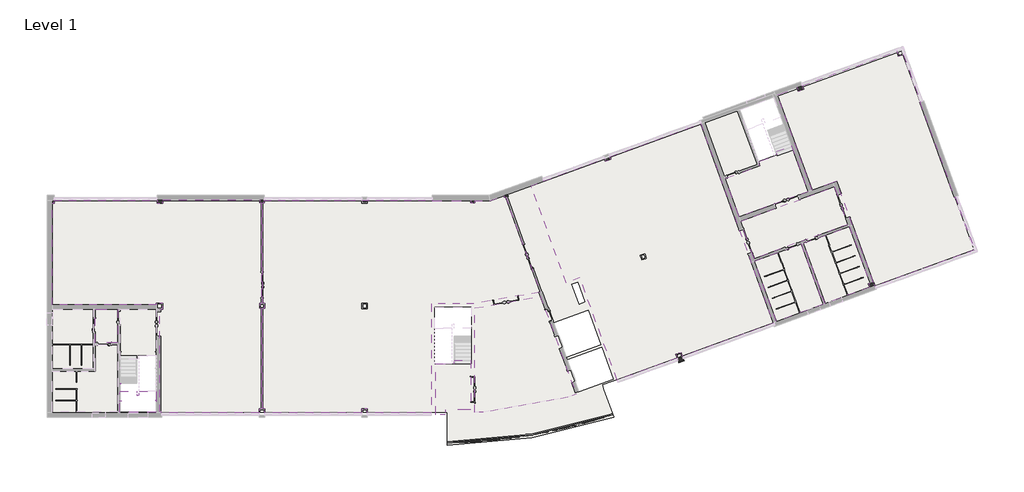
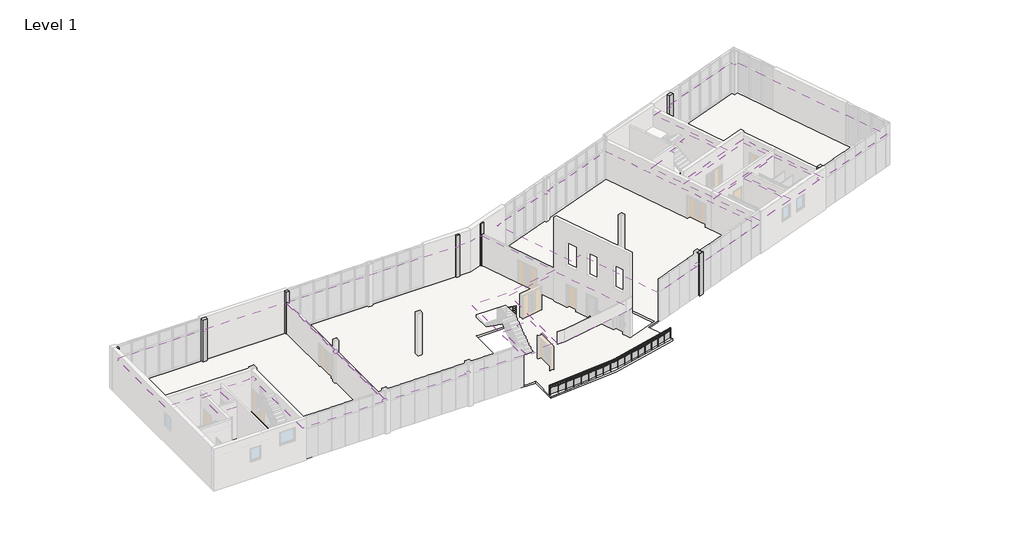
# One storey, part 7 of 12: 11 coverings, 8 columns, 3 proxies, 2 slabs, 1 railing.
"""IFC4 building model written with IfcOpenShell, lengths in millimetres."""

from ifc_helpers import new_model, si_unit, point, frame, frame_2d, origin, place, context, project, spatial, polyline, circle_curve, ellipse_curve, trimmed, segment, composite_curve, outline, extrude, faceted_brep, transform, mapped, element, save
from ifc_brep_helpers import plane_surface, cylinder_surface, revolved_surface, advanced_brep
from components import support_metal_circular_support_metal_circular_016e83f0, cladding_p1_5c8689e0

model = new_model("IFC4")

# Units and contexts
model_context = context("Model", 3, world=origin())
ifc_project = project(units=[si_unit("LENGTHUNIT", "METRE", prefix="MILLI")], contexts=[model_context])

# Site, building, storey
site = spatial("IfcSite", under=ifc_project)
building = spatial("IfcBuilding", under=site)
storey = spatial("IfcBuildingStorey", under=building, Name="Level 1", Elevation=3900.0)

# Proxies
placement = place(None, origin())
support_metal_circular_support_metal_circular_shape = support_metal_circular_support_metal_circular_016e83f0(model_context)
element("IfcBuildingElementProxy", 1, Name="Support - Metal - Circular : Support - Metal - Circular", ObjectType="Support - Metal - Circular : Support - Metal - Circular", at=placement, inside=storey, context=model_context, shape_type="MappedRepresentation", body=[
    mapped(support_metal_circular_support_metal_circular_shape, transform((5322.6000025, 2334.2312733, 6353.6814608), x_axis=(0.0, 1.0, 0.0), y_axis=(-1.0, 0.0, 0.0), z_axis=(0.0, 0.0, 1.0))),
])
element("IfcBuildingElementProxy", 2, Name="Support - Metal - Circular : Support - Metal - Circular", ObjectType="Support - Metal - Circular : Support - Metal - Circular", at=placement, inside=storey, context=model_context, shape_type="MappedRepresentation", body=[
    mapped(support_metal_circular_support_metal_circular_shape, transform((5322.6000025, 1100.0, 6732.5), x_axis=(0.0, 1.0, 0.0), y_axis=(-1.0, 0.0, 0.0), z_axis=(0.0, 0.0, 1.0))),
])
element("IfcBuildingElementProxy", 3, Name="Support - Metal - Circular : Support - Metal - Circular", ObjectType="Support - Metal - Circular : Support - Metal - Circular", at=placement, inside=storey, context=model_context, shape_type="MappedRepresentation", body=[
    mapped(support_metal_circular_support_metal_circular_shape, transform((7761.8000024, 1150.0, 6732.5), x_axis=(0.0, -1.0, 0.0), y_axis=(1.0, 0.0, 0.0), z_axis=(0.0, 0.0, 1.0))),
])

# Columns
cladding_p1_shape = cladding_p1_5c8689e0(model_context)
element("IfcColumn", 4, ObjectType="Cladding : P1", at=placement, inside=storey, context=model_context, shape_type="MappedRepresentation", body=[
    mapped(cladding_p1_shape, transform((45167.1271481, 4034.7258546, 0.0), x_axis=(0.9396926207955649, 0.34202014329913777, 0.0), y_axis=(-0.34202014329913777, 0.9396926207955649, 0.0), z_axis=(0.0, 0.0, 1.0))),
])
element("IfcColumn", 5, ObjectType="Columns_Rectangular : 300x300mm", at=placement, inside=storey, context=model_context, shape_type="SweptSolid", body=[
    extrude(outline(polyline([(562.2000028, 15173.2000005), (426.3000024, 15173.2000005), (426.3000025, 15358.1000013), (562.2000028, 15358.1000013), (562.2000028, 15173.2000005)])), frame((0.0, 0.0, 3900.0), z_axis=(0.0, 0.0, 1.0), x_axis=(1.0, 0.0, 0.0)), (0.0, 0.0, 1.0), 3900.0),
])
element("IfcColumn", 6, ObjectType="Columns_Rectangular : 300x300mm", at=placement, inside=storey, context=model_context, shape_type="Brep", body=[
    faceted_brep([(32610.0635714, 15583.1099494, 7800.0), (32891.9713576, 15685.7159924, 7800.0), (32842.4126389, 15821.8774531, 7800.0), (32560.5048526, 15719.2714101, 7800.0), (32842.4126389, 15821.8774531, 3900.0), (32891.9713576, 15685.7159924, 3900.0), (32807.3990217, 15654.9341795, 3900.0), (32694.6359072, 15613.8917623, 3900.0), (32610.0635714, 15583.1099494, 3900.0), (32560.5048526, 15719.2714101, 3900.0)], [[[0, 1, 2, 3]], [[4, 5, 6, 7, 8, 9]], [[8, 0, 3, 9]], [[1, 0, 8, 7, 6, 5]], [[1, 5, 4, 2]], [[3, 2, 4, 9]]]),
])
element("IfcColumn", 7, ObjectType="Columns_Rectangular : 300x300mm", at=placement, inside=storey, context=model_context, shape_type="SweptSolid", body=[
    extrude(outline(polyline([(30512.2000025, 15213.2000005), (30212.2000025, 15213.2000005), (30212.2000025, 15358.1000004), (30512.2000025, 15358.1000004), (30512.2000025, 15213.2000005)])), frame((0.0, 0.0, 3900.0), z_axis=(0.0, 0.0, 1.0), x_axis=(1.0, 0.0, 0.0)), (0.0, 0.0, 1.0), 3900.0),
])
element("IfcColumn", 8, ObjectType="Columns_Rectangular : 300x300mm", at=placement, inside=storey, context=model_context, shape_type="Brep", body=[
    faceted_brep([(15212.2000024, 15213.2000005, 7800.0), (15512.2000024, 15213.2000005, 7800.0), (15512.2000024, 15421.6000007, 7800.0), (15212.2000024, 15421.6000007, 7800.0), (15512.2000024, 15213.2000005, 3900.0), (15422.2000024, 15213.2000005, 3900.0), (15302.2000024, 15213.2000005, 3900.0), (15212.2000024, 15213.2000005, 3900.0), (15212.2000024, 15421.6000007, 3900.0), (15512.2000024, 15421.6000007, 3900.0)], [[[0, 1, 2, 3]], [[4, 5, 6, 7, 8, 9]], [[7, 0, 3, 8]], [[1, 0, 7, 6, 5, 4]], [[1, 4, 9, 2]], [[3, 2, 9, 8]]]),
])
element("IfcColumn", 9, ObjectType="Columns_Rectangular : 400x400mm", at=placement, inside=storey, context=model_context, shape_type="SweptSolid", body=[
    extrude(outline(polyline([(53911.2024396, 23282.8815641), (53535.3253912, 23146.0735068), (53438.5678927, 23411.9125491), (53814.444941, 23548.7206065), (53911.2024396, 23282.8815641)])), frame((0.0, 0.0, 3900.0), z_axis=(0.0, 0.0, 1.0), x_axis=(1.0, 0.0, 0.0)), (0.0, 0.0, 1.0), 3900.0),
])
element("IfcColumn", 10, ObjectType="Columns_Rectangular : 400x400mm", at=placement, inside=storey, context=model_context, shape_type="SweptSolid", body=[
    extrude(outline(polyline([(8287.2000028, 15163.2000005), (7887.2000028, 15163.2000005), (7887.2000028, 15421.6000008), (8287.2000028, 15421.6000008), (8287.2000028, 15163.2000005)])), frame((0.0, 0.0, 3900.0), z_axis=(0.0, 0.0, 1.0), x_axis=(1.0, 0.0, 0.0)), (0.0, 0.0, 1.0), 3900.0),
])
element("IfcColumn", 11, ObjectType="Columns_Rectangular : 400x400mm", at=placement, inside=storey, context=model_context, shape_type="Brep", body=[
    faceted_brep([(58904.6965317, 9563.3693005, 7800.0), (58528.8194834, 9426.5612432, 7800.0), (58617.1974884, 9183.74467, 7800.0), (58993.0745367, 9320.5527273, 7800.0), (58617.1974884, 9183.74467, 3900.0), (58528.8194834, 9426.5612432, 3900.0), (58646.2810605, 9469.3137609, 3900.0), (58881.2042157, 9554.8187967, 3900.0), (58904.6965317, 9563.3693005, 3900.0), (58993.0745367, 9320.5527273, 3900.0)], [[[0, 1, 2, 3]], [[4, 5, 6, 7, 8, 9]], [[1, 0, 8, 7, 6, 5]], [[1, 5, 4, 2]], [[8, 0, 3, 9]], [[3, 2, 4, 9]]]),
])

# Coverings
element("IfcCovering", 12, ObjectType="24\" x 24\"_Grid", at=placement, inside=storey, context=model_context, shape_type="SweptSolid", body=[
    extrude(outline(polyline([(15537.2000025, 7688.2000003), (15537.2000025, 8038.2000003), (15422.2000024, 8038.2000003), (15422.2000024, 15213.2000005), (15512.2000024, 15213.2000005), (15512.2000024, 15376.4000013), (27487.2000028, 15376.4000013), (27487.2000028, 15358.1000005), (30212.2000025, 15358.1000004), (30212.2000025, 15213.2000005), (30512.2000025, 15213.2000005), (30512.2000025, 15358.1000004), (31568.1945598, 15358.1000004), (32560.5048526, 15719.2714101), (32610.0635714, 15583.1099494), (32694.6359072, 15613.8917623), (35157.4406699, 8847.3912878), (30426.5067877, 8013.2000005), (27412.2000031, 8013.2000004), (27412.2000029, 269.9999995), (22862.2000028, 269.9999995), (22862.2000028, 538.199999), (22462.2000028, 538.199999), (22462.2000028, 269.9999995), (15562.2000028, 269.9999995), (15562.2000028, 538.199999), (15422.2000024, 538.199999), (15422.2000024, 7688.2000003), (15537.2000025, 7688.2000003)]), holes=[polyline([(22882.3447354, 7663.2000003), (22882.3447354, 8063.2000003), (22462.2000024, 8063.2000003), (22462.2000024, 7663.2000003), (22882.3447354, 7663.2000003)])]), frame((0.0, 0.0, 6700.0), z_axis=(0.0, 0.0, 1.0), x_axis=(1.0, 0.0, 0.0)), (0.0, 0.0, 1.0), 50.8),
])
element("IfcCovering", 13, ObjectType="24\" x 24\"_Grid", at=placement, inside=storey, context=model_context, shape_type="SweptSolid", body=[
    extrude(outline(polyline([(37985.6557273, 9877.5855238), (37018.9036828, 9525.7165557), (34556.358651, 16291.5034254), (34506.7999322, 16427.6648862), (35403.0750308, 16753.8823437), (35396.8160621, 16771.0787187), (39742.8264311, 18352.8971307), (39807.2836461, 18176.0793824), (40183.2076743, 18312.9045389), (40118.8394836, 18489.7546895), (46579.1582494, 20841.1184239), (51752.691745, 6626.9519648), (45292.3729792, 4275.5882301), (45193.8027741, 4546.4076429), (44817.7897216, 4409.5500841), (44916.3599267, 4138.7306713), (40640.8265039, 2582.5637698), (37985.6557273, 9877.5855238)]), holes=[polyline([(42724.7984316, 11256.6346278), (42605.0913814, 11585.5270451), (42276.1989642, 11465.8199949), (42395.9060144, 11136.9275777), (42724.7984316, 11256.6346278)])]), frame((0.0, 0.0, 6500.0), z_axis=(0.0, 0.0, 1.0), x_axis=(1.0, 0.0, 0.0)), (0.0, 0.0, 1.0), 50.8),
])
element("IfcCovering", 14, ObjectType="24\" x 24\"_Grid", at=placement, inside=storey, context=model_context, shape_type="SweptSolid", body=[
    extrude(outline(polyline([(61005.9307492, 25756.8181916), (62237.203265, 22373.9247568), (62185.7081092, 22355.182053), (64647.0218686, 15592.7780763), (64698.5170243, 15611.5207802), (66071.7278996, 11838.654908), (59011.8172406, 9269.0575717), (58904.6965317, 9563.3693005), (58881.2042157, 9554.8187967), (56271.6247245, 16724.5795241), (54522.9974115, 16088.1312314), (52042.3253121, 22903.72181), (53438.5678927, 23411.9125491), (53535.3253912, 23146.0735068), (53911.2024396, 23282.8815641), (53817.0784962, 23541.4849732), (60535.8807344, 25986.9289976), (60664.8223283, 25632.6648797), (61005.9307492, 25756.8181916)])), frame((0.0, 0.0, 6700.0), z_axis=(0.0, 0.0, 1.0), x_axis=(1.0, 0.0, 0.0)), (0.0, 0.0, 1.0), 50.8),
])
element("IfcCovering", 15, ObjectType="24\" x 24\"_Grid", at=placement, inside=storey, context=model_context, shape_type="SweptSolid", body=[
    extrude(outline(polyline([(50398.4414991, 11231.8823866), (49424.402333, 13908.0330013), (56089.4541534, 16333.9134736), (57063.4933194, 13657.7628589), (50398.4414991, 11231.8823866)])), frame((0.0, 0.0, 6700.0), z_axis=(0.0, 0.0, 1.0), x_axis=(1.0, 0.0, 0.0)), (0.0, 0.0, 1.0), 50.8),
])
element("IfcCovering", 16, ObjectType="24\" x 24\"_Grid", at=placement, inside=storey, context=model_context, shape_type="SweptSolid", body=[
    extrude(outline(polyline([(28408.3766929, 116.5000008), (27717.0000028, 116.5000009), (27717.000003, 3763.2000006), (29052.2000029, 3763.2000006), (29052.2000029, 4013.2000006), (30207.4000024, 4013.2000006), (30207.4000023, 474.8000006), (28408.3766929, 474.8000006), (28408.3766929, 116.5000008)])), frame((0.0, 0.0, 6700.0), z_axis=(0.0, 0.0, 1.0), x_axis=(1.0, 0.0, 0.0)), (0.0, 0.0, 1.0), 50.8),
])
element("IfcCovering", 17, ObjectType="24\" x 24\"_Grid", at=placement, inside=storey, context=model_context, shape_type="SweptSolid", body=[
    extrude(outline(composite_curve([segment(polyline([(35173.2965987, 8540.6850845), (37714.7826146, 1558.0096457), (37139.232462, 1348.5265219)]), True, "CONTINUOUS"), segment(trimmed(circle_curve(frame_2d((30685.6603889, 20363.2000005)), 20080.0), [point((37139.232462, 1348.5265219))], [point((31124.6877547, 288.0000022))], False, "CARTESIAN"), True, "CONTINUOUS"), segment(polyline([(31124.6877547, 288.0000022), (30512.2000023, 288.0000022), (30512.2000024, 7718.807995), (35173.2965987, 8540.6850845)]), True, "CONTINUOUS")], self_intersect=False)), frame((0.0, 0.0, 6700.0), z_axis=(0.0, 0.0, 1.0), x_axis=(1.0, 0.0, 0.0)), (0.0, 0.0, 1.0), 50.8),
])
element("IfcCovering", 18, ObjectType="24\" x 24\"_Grid", at=placement, inside=storey, context=model_context, shape_type="SweptSolid", body=[
    extrude(outline(polyline([(48322.2189803, 16936.2568752), (50804.9943671, 17839.9132141), (50697.0762506, 18136.4158024), (52050.0788572, 18628.8684779), (51964.5738214, 18863.791633), (53045.2203355, 19257.1147979), (54236.5791007, 15983.8834917), (49320.1545933, 14194.4513121), (48322.2189803, 16936.2568752)])), frame((0.0, 0.0, 6700.0), z_axis=(0.0, 0.0, 1.0), x_axis=(1.0, 0.0, 0.0)), (0.0, 0.0, 1.0), 50.8),
])
element("IfcCovering", 19, ObjectType="24\" x 24\"_Grid", at=placement, inside=storey, context=model_context, shape_type="SweptSolid", body=[
    extrude(outline(polyline([(15187.2000024, 8038.2000003), (15187.2000024, 7688.2000003), (15302.2000024, 7688.2000003), (15302.2000024, 538.199999), (15162.2000029, 538.199999), (15162.2000029, 269.9999995), (8187.2000027, 269.9999995), (8187.2000027, 313.0000002), (8092.0000022, 313.0000002), (8092.0000022, 7638.2000005), (8287.2000028, 7638.2000005), (8287.2000028, 8063.2000005), (7837.2000024, 8063.2000005), (7837.2000024, 7938.2000004), (433.0000002, 7938.2000004), (433.0000014, 15173.2000005), (562.2000028, 15173.2000005), (562.2000028, 15388.9000009), (7887.2000025, 15388.9000009), (7887.2000025, 15163.2000005), (8287.2000028, 15163.2000005), (8287.2000028, 15421.6000008), (15212.2000024, 15421.6000007), (15212.2000024, 15213.2000005), (15302.2000024, 15213.2000005), (15302.2000024, 8038.2000003), (15187.2000024, 8038.2000003)])), frame((0.0, 0.0, 6700.0), z_axis=(0.0, 0.0, 1.0), x_axis=(1.0, 0.0, 0.0)), (0.0, 0.0, 1.0), 50.8),
])
element("IfcCovering", 20, ObjectType="Plain", at=placement, inside=storey, context=model_context, shape_type="SweptSolid", body=[
    extrude(outline(polyline([(58641.7705359, 9467.6720642), (58528.8194834, 9426.5612432), (58617.1974884, 9183.74467), (55452.3127414, 8031.8208273), (53888.7334543, 12327.7196125), (57166.5692539, 13520.7542762), (58641.7705359, 9467.6720642)])), frame((0.0, 0.0, 6700.0), z_axis=(0.0, 0.0, 1.0), x_axis=(1.0, 0.0, 0.0)), (0.0, 0.0, 1.0), 57.0),
])
element("IfcCovering", 21, ObjectType="Plain", at=placement, inside=storey, context=model_context, shape_type="SweptSolid", body=[
    extrude(outline(polyline([(55298.2031516, 7975.7295238), (51971.1274586, 6764.7730045), (50407.5481715, 11060.6717897), (53734.6238645, 12271.628309), (55298.2031516, 7975.7295238)])), frame((0.0, 0.0, 6700.0), z_axis=(0.0, 0.0, 1.0), x_axis=(1.0, 0.0, 0.0)), (0.0, 0.0, 1.0), 57.0),
])
element("IfcCovering", 22, ObjectType="Plain", at=placement, inside=storey, context=model_context, shape_type="SweptSolid", body=[
    extrude(outline(polyline([(3496.5000006, 7633.4000004), (5095.2000024, 7633.4000004), (5095.2000024, 5250.0000001), (3496.5000006, 5250.0000005), (3496.5000006, 7633.4000004)])), frame((0.0, 0.0, 6700.0), z_axis=(0.0, 0.0, 1.0), x_axis=(1.0, 0.0, 0.0)), (0.0, 0.0, 1.0), 57.0),
])

# Railing
element("IfcRailing", 23, ObjectType="Glass_Panel-Bottom_Fill", at=placement, inside=storey, context=model_context, shape_type="SolidModel", body=[
    advanced_brep(
    [(40308.8689844, 181.3840931, 4800.0), (28548.6661194, -1809.3617636, 4800.0), (28549.739034, -1889.3545686, 4800.0), (40334.1834987, 105.4948622, 4800.0)],
    [
        (0, 1, circle_curve(frame((28028.1685328, 36997.1374158, 4800.0), z_axis=(0.0, 0.0, -1.0), x_axis=(0.013411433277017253, -0.9999100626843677, 0.0)), 38809.9896457)),
        (1, 2, ellipse_curve(frame((28549.2025767, -1849.3581661, 4800.0), z_axis=(0.9999100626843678, 0.013411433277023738, 0.0), x_axis=(0.013411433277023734, -0.9999100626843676, 0.0)), 40.0, 30.0)),
        (2, 3, circle_curve(frame((28028.1685328, 36997.1374158, 4800.0), z_axis=(0.0, 0.0, 1.0), x_axis=(0.013411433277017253, -0.9999100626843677, 0.0)), 38889.9896457)),
        (3, 0, ellipse_curve(frame((40321.5262416, 143.4394777, 4800.0), z_axis=(-0.9486153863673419, -0.3164314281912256, 0.0), x_axis=(0.3164314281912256, -0.9486153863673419, 0.0)), 40.0, 30.0)),
        (2, 1, ellipse_curve(frame((28549.2025767, -1849.3581661, 4800.0), z_axis=(0.9999100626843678, 0.013411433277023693, 0.0), x_axis=(0.013411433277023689, -0.9999100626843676, 0.0)), 40.0, 30.0)),
        (0, 3, ellipse_curve(frame((40321.5262416, 143.4394777, 4800.0), z_axis=(-0.9486153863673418, -0.31643142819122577, 0.0), x_axis=(0.31643142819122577, -0.9486153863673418, 0.0)), 40.0, 30.0)),
    ],
    [
        revolved_surface(trimmed(ellipse_curve(frame((28549.2025767, -1849.3581661, 4800.0), z_axis=(-0.9999100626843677, -0.013411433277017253, 0.0), x_axis=(0.013411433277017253, -0.9999100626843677, 0.0)), 40.0, 30.0), [point((28549.739034, -1889.3545686, 4800.0))], [point((28548.6661194, -1809.3617636, 4800.0))], True, "CARTESIAN"), (28028.1685328, 36997.1374158, 4800.0), (0.0, 0.0, 1.0)),
        revolved_surface(trimmed(ellipse_curve(frame((28549.2025767, -1849.3581661, 4800.0), z_axis=(-0.9999100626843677, -0.013411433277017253, 0.0), x_axis=(0.013411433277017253, -0.9999100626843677, 0.0)), 40.0, 30.0), [point((28548.6661194, -1809.3617636, 4800.0))], [point((28549.739034, -1889.3545686, 4800.0))], True, "CARTESIAN"), (28028.1685328, 36997.1374158, 4800.0), (0.0, 0.0, 1.0)),
        plane_surface(frame((28549.2025767, -1849.3581661, 4800.0), z_axis=(-0.9999100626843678, -0.013411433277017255, 0.0), x_axis=(0.013411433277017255, -0.9999100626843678, 0.0))),
        plane_surface(frame((40321.5262416, 143.4394777, 4800.0), z_axis=(0.9486153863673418, 0.3164314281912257, 0.0), x_axis=(0.3164314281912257, -0.9486153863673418, 0.0))),
    ],
    [
        (0, [[1, 2, 3, 4]]),
        (1, [[-3, 5, -1, 6]]),
        (2, [[-5, -2]]),
        (3, [[-4, -6]]),
    ],
),
    extrude(outline(composite_curve([segment(trimmed(circle_curve(frame_2d((28028.1685328, 36997.1374158)), 38859.3804108), [point((40324.4977748, 134.5312533))], [point((28549.3285203, -1858.7480867))], False, "CARTESIAN"), True, "CONTINUOUS"), segment(polyline([(28549.3285203, -1858.7480867), (28549.0602917, -1838.7498855)]), True, "CONTINUOUS"), segment(trimmed(circle_curve(frame_2d((28028.1685328, 36997.1374158)), 38839.3804108), [point((28549.0602917, -1838.7498855))], [point((40318.1691462, 153.5035611))], True, "CARTESIAN"), True, "CONTINUOUS"), segment(polyline([(40318.1691462, 153.5035611), (40324.4977748, 134.5312533)]), True, "CONTINUOUS")], self_intersect=False)), frame((0.0, 0.0, 4680.0), z_axis=(0.0, 0.0, 1.0), x_axis=(1.0, 0.0, 0.0)), (0.0, 0.0, 1.0), 20.0),
    extrude(outline(composite_curve([segment(trimmed(circle_curve(frame_2d((28028.1685328, 36997.1374158)), 38859.3804108), [point((40324.4977748, 134.5312533))], [point((28549.3285203, -1858.7480867))], False, "CARTESIAN"), True, "CONTINUOUS"), segment(polyline([(28549.3285203, -1858.7480867), (28549.0602917, -1838.7498855)]), True, "CONTINUOUS"), segment(trimmed(circle_curve(frame_2d((28028.1685328, 36997.1374158)), 38839.3804108), [point((28549.0602917, -1838.7498855))], [point((40318.1691462, 153.5035611))], True, "CARTESIAN"), True, "CONTINUOUS"), segment(polyline([(40318.1691462, 153.5035611), (40324.4977748, 134.5312533)]), True, "CONTINUOUS")], self_intersect=False)), frame((0.0, 0.0, 4580.0), z_axis=(0.0, 0.0, 1.0), x_axis=(1.0, 0.0, 0.0)), (0.0, 0.0, 1.0), 20.0),
    extrude(outline(polyline([(40266.4314409, 152.0906486), (40277.8190754, 155.8750613), (40293.5874619, 108.4265841), (40282.1998274, 104.6421714), (40266.4314409, 152.0906486)])), frame((0.0, 0.0, 3900.0), z_axis=(0.0, 0.0, 1.0), x_axis=(1.0, 0.0, 0.0)), (0.0, 0.0, 1.0), 869.8465326),
    extrude(outline(polyline([(39614.7863131, -87.6460581), (40281.0268462, 127.1178871), (40282.5608743, 122.3590262), (39616.3203413, -92.404919), (39614.7863131, -87.6460581)])), frame((0.0, 0.0, 4000.0), z_axis=(0.0, 0.0, 1.0), x_axis=(1.0, 0.0, 0.0)), (0.0, 0.0, 1.0), 580.0),
    extrude(outline(polyline([(39600.5954794, -62.4292958), (39612.0494504, -58.8506721), (39626.9603824, -106.5755515), (39615.5064114, -110.1541752), (39600.5954794, -62.4292958)])), frame((0.0, 0.0, 3900.0), z_axis=(0.0, 0.0, 1.0), x_axis=(1.0, 0.0, 0.0)), (0.0, 0.0, 1.0), 869.8465326),
    extrude(outline(polyline([(38944.7367146, -290.3861815), (39614.7385729, -87.6609738), (39616.1866101, -92.4467013), (38946.1847518, -295.1719091), (38944.7367146, -290.3861815)])), frame((0.0, 0.0, 4000.0), z_axis=(0.0, 0.0, 1.0), x_axis=(1.0, 0.0, 0.0)), (0.0, 0.0, 1.0), 580.0),
    extrude(outline(polyline([(38931.0025232, -264.9178317), (38942.5191122, -261.5461589), (38956.5677488, -309.5319464), (38945.0511598, -312.9036192), (38931.0025232, -264.9178317)])), frame((0.0, 0.0, 3900.0), z_axis=(0.0, 0.0, 1.0), x_axis=(1.0, 0.0, 0.0)), (0.0, 0.0, 1.0), 869.8465326),
    extrude(outline(polyline([(38271.1430463, -481.0208902), (38944.6887135, -290.4002347), (38946.0502896, -295.2112752), (38272.5046224, -485.8319306), (38271.1430463, -481.0208902)])), frame((0.0, 0.0, 4000.0), z_axis=(0.0, 0.0, 1.0), x_axis=(1.0, 0.0, 0.0)), (0.0, 0.0, 1.0), 580.0),
    extrude(outline(polyline([(38257.8699559, -455.309221), (38269.445424, -452.1455937), (38282.6272045, -500.3767109), (38271.0517364, -503.5403382), (38257.8699559, -455.309221)])), frame((0.0, 0.0, 3900.0), z_axis=(0.0, 0.0, 1.0), x_axis=(1.0, 0.0, 0.0)), (0.0, 0.0, 1.0), 869.8465326),
    extrude(outline(polyline([(37594.2239908, -659.4882942), (38271.0947997, -481.0340762), (38272.3694727, -485.8688677), (37595.4986637, -664.3230857), (37594.2239908, -659.4882942)])), frame((0.0, 0.0, 4000.0), z_axis=(0.0, 0.0, 1.0), x_axis=(1.0, 0.0, 0.0)), (0.0, 0.0, 1.0), 580.0),
    extrude(outline(polyline([(37581.4163106, -633.5416531), (37593.0468998, -630.5870983), (37605.3575445, -679.0478869), (37593.7269553, -682.0024416), (37581.4163106, -633.5416531)])), frame((0.0, 0.0, 3900.0), z_axis=(0.0, 0.0, 1.0), x_axis=(1.0, 0.0, 0.0)), (0.0, 0.0, 1.0), 869.8465326),
    extrude(outline(polyline([(36914.1993101, -825.7304543), (37594.1755144, -659.5006088), (37595.3628705, -664.3575817), (36915.3866661, -830.5874272), (36914.1993101, -825.7304543)])), frame((0.0, 0.0, 4000.0), z_axis=(0.0, 0.0, 1.0), x_axis=(1.0, 0.0, 0.0)), (0.0, 0.0, 1.0), 580.0),
    extrude(outline(polyline([(36901.8611981, -799.5572647), (36913.5431326, -796.8127417), (36924.9786449, -845.4874688), (36913.2967104, -848.2319918), (36901.8611981, -799.5572647)])), frame((0.0, 0.0, 3900.0), z_axis=(0.0, 0.0, 1.0), x_axis=(1.0, 0.0, 0.0)), (0.0, 0.0, 1.0), 869.8465326),
    extrude(outline(polyline([(36231.2897746, -979.6933996), (36914.1506197, -825.7418934), (36915.2502733, -830.6194709), (36232.3894282, -984.5709771), (36231.2897746, -979.6933996)])), frame((0.0, 0.0, 4000.0), z_axis=(0.0, 0.0, 1.0), x_axis=(1.0, 0.0, 0.0)), (0.0, 0.0, 1.0), 580.0),
    extrude(outline(polyline([(36219.4252364, -953.3021588), (36231.1547236, -950.7685586), (36241.7113911, -999.6414219), (36229.9819039, -1002.1750221), (36219.4252364, -953.3021588)])), frame((0.0, 0.0, 3900.0), z_axis=(0.0, 0.0, 1.0), x_axis=(1.0, 0.0, 0.0)), (0.0, 0.0, 1.0), 869.8465326),
    extrude(outline(polyline([(35545.7170914, -1121.3271461), (36231.2408861, -979.7039597), (36232.2524803, -984.6005582), (35546.7286856, -1126.2237447), (35545.7170914, -1121.3271461)])), frame((0.0, 0.0, 4000.0), z_axis=(0.0, 0.0, 1.0), x_axis=(1.0, 0.0, 0.0)), (0.0, 0.0, 1.0), 580.0),
    extrude(outline(polyline([(35534.3299789, -1094.726422), (35546.1032108, -1092.4045671), (35555.7776061, -1141.4597001), (35544.0043741, -1143.781555), (35534.3299789, -1094.726422)])), frame((0.0, 0.0, 3900.0), z_axis=(0.0, 0.0, 1.0), x_axis=(1.0, 0.0, 0.0)), (0.0, 0.0, 1.0), 869.8465326),
    extrude(outline(polyline([(34857.703832, -1250.5857124), (35545.6680206, -1121.3368236), (35546.5912269, -1126.2508536), (34858.6270383, -1255.4997423), (34857.703832, -1250.5857124)])), frame((0.0, 0.0, 4000.0), z_axis=(0.0, 0.0, 1.0), x_axis=(1.0, 0.0, 0.0)), (0.0, 0.0, 1.0), 580.0),
    extrude(outline(polyline([(34846.7978419, -1223.7841408), (34858.6109963, -1221.674785), (34867.3999787, -1270.8962619), (34855.5868242, -1273.0056177), (34846.7978419, -1223.7841408)])), frame((0.0, 0.0, 3900.0), z_axis=(0.0, 0.0, 1.0), x_axis=(1.0, 0.0, 0.0)), (0.0, 0.0, 1.0), 869.8465326),
    extrude(outline(polyline([(34167.4733602, -1367.4271344), (34857.6545947, -1250.5945042), (34858.4891135, -1255.5243701), (34168.307879, -1372.3570004), (34167.4733602, -1367.4271344)])), frame((0.0, 0.0, 4000.0), z_axis=(0.0, 0.0, 1.0), x_axis=(1.0, 0.0, 0.0)), (0.0, 0.0, 1.0), 580.0),
    extrude(outline(polyline([(34157.0520331, -1340.4334166), (34168.901275, -1338.5372447), (34176.8019911, -1387.9090857), (34164.9527492, -1389.8052576), (34157.0520331, -1340.4334166)])), frame((0.0, 0.0, 3900.0), z_axis=(0.0, 0.0, 1.0), x_axis=(1.0, 0.0, 0.0)), (0.0, 0.0, 1.0), 869.8465326),
    extrude(outline(polyline([(33475.2497597, -1471.8134797), (34167.4239725, -1367.4350377), (34168.1695328, -1372.3791392), (33475.99532, -1476.7575812), (33475.2497597, -1471.8134797)])), frame((0.0, 0.0, 4000.0), z_axis=(0.0, 0.0, 1.0), x_axis=(1.0, 0.0, 0.0)), (0.0, 0.0, 1.0), 580.0),
    extrude(outline(polyline([(33465.3164791, -1444.6363791), (33477.1979614, -1442.9540068), (33484.2078462, -1492.4601833), (33472.3263639, -1494.1425556), (33465.3164791, -1444.6363791)])), frame((0.0, 0.0, 3900.0), z_axis=(0.0, 0.0, 1.0), x_axis=(1.0, 0.0, 0.0)), (0.0, 0.0, 1.0), 869.8465326),
    extrude(outline(polyline([(32781.2577613, -1563.7108591), (33475.2002376, -1471.8204918), (33475.8565974, -1476.7772238), (32781.9141211, -1568.667591), (32781.2577613, -1563.7108591)])), frame((0.0, 0.0, 4000.0), z_axis=(0.0, 0.0, 1.0), x_axis=(1.0, 0.0, 0.0)), (0.0, 0.0, 1.0), 580.0),
    extrude(outline(polyline([(32771.8157519, -1536.3591988), (32783.7256175, -1534.8911722), (32789.8423953, -1584.515612), (32777.9325297, -1585.9836387), (32771.8157519, -1536.3591988)])), frame((0.0, 0.0, 3900.0), z_axis=(0.0, 0.0, 1.0), x_axis=(1.0, 0.0, 0.0)), (0.0, 0.0, 1.0), 869.8465326),
    extrude(outline(polyline([(32085.72267, -1643.089438), (32781.208121, -1563.7169778), (32781.7750671, -1568.684731), (32086.2896161, -1648.0571912), (32085.72267, -1643.089438)])), frame((0.0, 0.0, 4000.0), z_axis=(0.0, 0.0, 1.0), x_axis=(1.0, 0.0, 0.0)), (0.0, 0.0, 1.0), 580.0),
    extrude(outline(polyline([(32076.7749971, -1615.5720979), (32088.7093793, -1614.3188935), (32093.9310643, -1664.045486), (32081.9966821, -1665.2986904), (32076.7749971, -1615.5720979)])), frame((0.0, 0.0, 3900.0), z_axis=(0.0, 0.0, 1.0), x_axis=(1.0, 0.0, 0.0)), (0.0, 0.0, 1.0), 869.8465326),
    extrude(outline(polyline([(31388.8702915, -1709.9234463), (32085.6729274, -1643.0946614), (32086.1502759, -1648.0718231), (31389.3476399, -1714.900608), (31388.8702915, -1709.9234463)])), frame((0.0, 0.0, 4000.0), z_axis=(0.0, 0.0, 1.0), x_axis=(1.0, 0.0, 0.0)), (0.0, 0.0, 1.0), 580.0),
    extrude(outline(polyline([(31380.4198601, -1682.2493597), (31392.3748844, -1681.2113844), (31396.6997813, -1731.0239859), (31384.7447569, -1732.0619612), (31380.4198601, -1682.2493597)])), frame((0.0, 0.0, 3900.0), z_axis=(0.0, 0.0, 1.0), x_axis=(1.0, 0.0, 0.0)), (0.0, 0.0, 1.0), 869.8465326),
    extrude(outline(polyline([(30690.9268593, -1764.1911861), (31388.8204629, -1709.9277726), (31389.2080587, -1714.9127269), (30691.3144551, -1769.1761404), (30690.9268593, -1764.1911861)])), frame((0.0, 0.0, 4000.0), z_axis=(0.0, 0.0, 1.0), x_axis=(1.0, 0.0, 0.0)), (0.0, 0.0, 1.0), 580.0),
    extrude(outline(polyline([(30682.9764127, -1736.3693375), (30694.948198, -1735.5469284), (30698.3749028, -1785.4293671), (30686.4031175, -1786.2517763), (30682.9764127, -1736.3693375)])), frame((0.0, 0.0, 3900.0), z_axis=(0.0, 0.0, 1.0), x_axis=(1.0, 0.0, 0.0)), (0.0, 0.0, 1.0), 869.8465326),
    extrude(outline(polyline([(29992.1189611, -1805.8750395), (30690.8769608, -1764.1946139), (30691.1746782, -1769.1857425), (29992.4166785, -1810.8661681), (29992.1189611, -1805.8750395)])), frame((0.0, 0.0, 4000.0), z_axis=(0.0, 0.0, 1.0), x_axis=(1.0, 0.0, 0.0)), (0.0, 0.0, 1.0), 580.0),
    extrude(outline(polyline([(29984.6710806, -1777.9144613), (29996.6557402, -1777.3078852), (29999.1831403, -1827.2439669), (29987.1984807, -1827.8505429), (29984.6710806, -1777.9144613)])), frame((0.0, 0.0, 3900.0), z_axis=(0.0, 0.0, 1.0), x_axis=(1.0, 0.0, 0.0)), (0.0, 0.0, 1.0), 869.8465326),
    extrude(outline(polyline([(29292.6734654, -1834.9614737), (29992.069009, -1805.8775677), (29992.2767512, -1810.8732502), (29292.8812076, -1839.9571562), (29292.6734654, -1834.9614737)])), frame((0.0, 0.0, 4000.0), z_axis=(0.0, 0.0, 1.0), x_axis=(1.0, 0.0, 0.0)), (0.0, 0.0, 1.0), 580.0),
    extrude(outline(polyline([(29285.7305689, -1806.8712433), (29297.7242119, -1806.4806973), (29299.3514869, -1856.45421), (29287.3578438, -1856.844756), (29285.7305689, -1806.8712433)])), frame((0.0, 0.0, 3900.0), z_axis=(0.0, 0.0, 1.0), x_axis=(1.0, 0.0, 0.0)), (0.0, 0.0, 1.0), 869.8465326),
    extrude(outline(polyline([(28592.8174475, -1851.4410459), (29292.6234759, -1834.9631015), (29292.7411755, -1839.961716), (28592.9351471, -1856.4396604), (28592.8174475, -1851.4410459)])), frame((0.0, 0.0, 4000.0), z_axis=(0.0, 0.0, 1.0), x_axis=(1.0, 0.0, 0.0)), (0.0, 0.0, 1.0), 580.0),
    extrude(outline(polyline([(28586.3817889, -1823.2302827), (28598.3805217, -1823.0558936), (28599.1071432, -1873.0506135), (28587.1084105, -1873.2250027), (28586.3817889, -1823.2302827)])), frame((0.0, 0.0, 3900.0), z_axis=(0.0, 0.0, 1.0), x_axis=(1.0, 0.0, 0.0)), (0.0, 0.0, 1.0), 869.8465326),
    extrude(outline(polyline([(40305.8348586, 165.2020895), (40317.2184387, 168.9986806), (40333.0375683, 121.5670968), (40321.6539882, 117.7705057), (40305.8348586, 165.2020895)])), frame((0.0, 0.0, 3900.0), z_axis=(0.0, 0.0, 1.0), x_axis=(1.0, 0.0, 0.0)), (0.0, 0.0, 1.0), 869.8465326),
    extrude(outline(polyline([(28544.8581965, -1823.8051549), (28556.8571089, -1823.6436), (28557.5302544, -1873.6390686), (28545.5313419, -1873.8006235), (28544.8581965, -1823.8051549)])), frame((0.0, 0.0, 3900.0), z_axis=(0.0, 0.0, 1.0), x_axis=(1.0, 0.0, 0.0)), (0.0, 0.0, 1.0), 869.8465326),
])

# Slabs
element("IfcSlab", 24, ObjectType="8\" Thickness", at=placement, inside=storey, context=model_context, shape_type="SolidModel", body=[
    faceted_brep([(6447.2000025, 1800.0, 5849.0), (5247.2000025, 1800.0, 5849.0), (5247.2000025, 1572.7280846, 5849.0), (5247.2000025, 300.0000001, 5849.0), (7837.2000024, 300.0000001, 5849.0), (7837.2000024, 1777.2719153, 5849.0), (7837.2000024, 1800.0, 5849.0), (6637.2000026, 1800.0, 5849.0), (6637.2000026, 1777.2719153, 5849.0), (6637.2000026, 1500.0, 5849.0), (6447.2000025, 1500.0, 5849.0), (6447.2000025, 1572.7280846, 5849.0), (6447.2000025, 1800.0, 5487.8435509), (6447.2000025, 1800.0, 5671.7272727), (6447.2000025, 1500.0, 5649.0), (6447.2000025, 1572.7280846, 5649.0), (5247.2000025, 1800.0, 5671.7272727), (5247.2000025, 1800.0, 5487.8435509), (5247.2000025, 1572.7280846, 5649.0), (5247.2000025, 300.0000001, 5649.0), (6637.2000026, 1800.0, 5665.1162782), (6637.2000026, 1777.2719153, 5649.0), (6637.2000026, 1500.0, 5649.0), (7837.2000024, 1777.2719153, 5649.0), (7837.2000024, 300.0000001, 5649.0), (7837.2000024, 1800.0, 5665.1162782)], [[[0, 1, 2, 3, 4, 5, 6, 7, 8, 9, 10, 11]], [[12, 13, 0, 11, 10, 14, 15]], [[1, 16, 17, 18, 19, 3, 2]], [[7, 20, 21, 22, 9, 8]], [[18, 15, 14, 22, 21, 23, 24, 19]], [[15, 18, 17, 12]], [[23, 21, 20, 25]], [[1, 0, 13, 12, 17, 16]], [[4, 3, 19, 24]], [[4, 24, 23, 25, 6, 5]], [[7, 6, 25, 20]], [[10, 9, 22, 14]]]),
    extrude(outline(polyline([(6447.2000025, 1800.0), (6447.2000025, 1500.0), (6637.2000026, 1500.0), (6637.2000026, 1800.0), (7837.2000024, 1800.0), (7837.2000024, 300.0000001), (5247.2000025, 300.0000001), (5247.2000025, 1800.0), (6447.2000025, 1800.0)])), frame((0.0, 0.0, 5849.0), z_axis=(0.0, 0.0, 1.0), x_axis=(1.0, 0.0, 0.0)), (0.0, 0.0, 1.0), 1.0),
])
element("IfcSlab", 25, ObjectType="Generic 6 1/2\"", at=placement, inside=storey, context=model_context, shape_type="AdvancedBrep", body=[
    advanced_brep(
    [(39562.9052516, 2235.0344037, 3734.9), (39597.6544982, 2139.5616334, 3734.9), (39662.8093355, 1960.5501892, 3734.9), (40391.5794686, -41.7292956, 3734.9), (40379.5266208, -45.7502194, 3734.9), (28556.6779042, -2047.1011917, 3734.9), (28543.9766926, -2047.27114, 3734.9), (28543.9766928, 128.5000005, 3734.9), (28543.9766928, 288.0000005, 3734.9), (27717.0000029, 288.0000005, 3734.9), (27412.2000029, 288.0000005, 3734.9), (420.3, 288.0, 3734.9), (420.3000025, 15318.4000008, 3734.9), (31575.1947409, 15318.4000004, 3734.9), (49365.7514082, 21794.2007453, 3734.9), (50697.0762506, 18136.4158024, 3734.9), (52050.0788572, 18628.8684779, 3734.9), (51964.5738214, 18863.791633, 3734.9), (53106.6762329, 19279.4829152, 3734.9), (51860.8308388, 22702.415004, 3734.9), (60878.1700065, 25984.7457815, 3734.9), (66017.7677921, 11863.8169191, 3734.9), (40626.4274557, 2622.1248295, 3734.9), (40391.5043005, 2536.6197937, 3734.9), (38570.0121341, 7541.1283909, 3734.9), (36126.8113195, 6651.8760181, 3734.9), (37017.2607629, 4205.3862799, 3734.9), (39460.4615772, 5094.6386527, 3734.9), (39528.8656059, 4906.7001285, 3734.9), (37085.6647918, 4017.4477559, 3734.9), (37905.7561806, 1764.2651831, 3734.9), (40348.9569947, 2653.5175556, 3734.9), (38349.2678229, 8147.6184016, 3734.9), (37836.2376078, 9557.1573328, 3734.9), (37422.7728548, 9406.6684697, 3734.9), (37935.8030697, 7997.1295385, 3734.9), (29052.2000029, 4013.2000006, 3734.9), (30252.200003, 4013.2000006, 3734.9), (30252.200003, 7708.4000005, 3734.9), (30252.200003, 7757.8000004, 3734.9), (27717.0000031, 7757.8000004, 3734.9), (27667.6000031, 7757.8000004, 3734.9), (27667.6000031, 3763.2000006, 3734.9), (27717.000003, 3763.2000006, 3734.9), (29052.2000029, 3763.2000006, 3734.9), (5259.2000024, 4050.0, 3734.9), (5259.2000024, 345.4000001, 3734.9), (7841.8000023, 345.4000001, 3734.9), (7841.8000023, 4300.0, 3734.9), (6497.2000024, 4300.0, 3734.9), (6497.2000024, 4050.0, 3734.9), (40391.5794686, -41.7292956, 3900.0), (39662.8093355, 1960.5501892, 3900.0), (39597.6544982, 2139.5616334, 3900.0), (39562.9052516, 2235.0344037, 3900.0), (40391.5043005, 2536.6197937, 3900.0), (40626.4274557, 2622.1248295, 3900.0), (66017.7677921, 11863.8169191, 3900.0), (60878.1700065, 25984.7457815, 3900.0), (51860.8308388, 22702.415004, 3900.0), (53106.6762329, 19279.4829152, 3900.0), (51964.5738214, 18863.791633, 3900.0), (52050.0788572, 18628.8684779, 3900.0), (50697.0762506, 18136.4158024, 3900.0), (49365.7514082, 21794.2007453, 3900.0), (31575.1947409, 15318.4000004, 3900.0), (420.3000025, 15318.4000008, 3900.0), (420.3, 288.0, 3900.0), (27412.2000029, 288.0000005, 3900.0), (27717.0000029, 288.0000005, 3900.0), (28543.9766928, 288.0000005, 3900.0), (28543.9766928, 128.5000005, 3900.0), (28543.9766926, -2047.27114, 3900.0), (28556.6779042, -2047.1011917, 3900.0), (40379.5266208, -45.7502194, 3900.0), (36126.8113195, 6651.8760181, 3900.0), (38570.0121341, 7541.1283909, 3900.0), (39460.4615772, 5094.6386527, 3900.0), (37017.2607629, 4205.3862799, 3900.0), (37085.6647918, 4017.4477559, 3900.0), (39528.8656059, 4906.7001285, 3900.0), (40348.9569947, 2653.5175556, 3900.0), (37905.7561806, 1764.2651831, 3900.0), (30252.200003, 4013.2000006, 3900.0), (29052.2000029, 4013.2000006, 3900.0), (29052.2000029, 3763.2000006, 3900.0), (27717.000003, 3763.2000006, 3900.0), (27667.6000031, 3763.2000006, 3900.0), (27667.6000031, 7757.8000004, 3900.0), (27717.0000031, 7757.8000004, 3900.0), (30252.200003, 7757.8000004, 3900.0), (30252.200003, 7708.4000005, 3900.0), (5259.2000024, 345.4000001, 3900.0), (5259.2000024, 4050.0, 3900.0), (6497.2000024, 4050.0, 3900.0), (6497.2000024, 4300.0, 3900.0), (7841.8000023, 4300.0, 3900.0), (7841.8000023, 345.4000001, 3900.0), (37836.2376078, 9557.1573328, 3900.0), (38349.2678229, 8147.6184016, 3900.0), (37935.8030697, 7997.1295385, 3900.0), (37422.7728548, 9406.6684697, 3900.0)],
    [
        (0, 1),
        (1, 2),
        (2, 3),
        (3, 4, circle_curve(frame((28027.924496, 36998.4991929, 3734.9), z_axis=(0.0, 0.0, -1.0), x_axis=(1.0, 0.0, 0.0)), 39049.1804108)),
        (4, 5, circle_curve(frame((28027.924496, 36998.4991929, 3734.9), z_axis=(0.0, 0.0, -1.0), x_axis=(1.0, 0.0, 0.0)), 39049.1803956)),
        (5, 6, circle_curve(frame((28027.924496, 36998.4991929, 3734.9), z_axis=(0.0, 0.0, -1.0), x_axis=(1.0, 0.0, 0.0)), 39049.1803955)),
        (6, 7),
        (7, 8),
        (8, 9),
        (9, 10),
        (10, 11),
        (11, 12),
        (12, 13),
        (13, 14),
        (14, 15),
        (15, 16),
        (16, 17),
        (17, 18),
        (18, 19),
        (19, 20),
        (20, 21),
        (21, 22),
        (22, 23),
        (23, 0),
        (24, 25),
        (25, 26),
        (26, 27),
        (27, 24),
        (28, 29),
        (29, 30),
        (30, 31),
        (31, 28),
        (32, 33),
        (33, 34),
        (34, 35),
        (35, 32),
        (36, 37),
        (37, 38),
        (38, 39),
        (39, 40),
        (40, 41),
        (41, 42),
        (42, 43),
        (43, 44),
        (44, 36),
        (45, 46),
        (46, 47),
        (47, 48),
        (48, 49),
        (49, 50),
        (50, 45),
        (51, 52),
        (52, 53),
        (53, 54),
        (54, 55),
        (55, 56),
        (56, 57),
        (57, 58),
        (58, 59),
        (59, 60),
        (60, 61),
        (61, 62),
        (62, 63),
        (63, 64),
        (64, 65),
        (65, 66),
        (66, 67),
        (67, 68),
        (68, 69),
        (69, 70),
        (70, 71),
        (71, 72),
        (72, 73, circle_curve(frame((28027.924496, 36998.4991929, 3900.0), z_axis=(0.0, 0.0, 1.0), x_axis=(1.0, 0.0, 0.0)), 39049.1804108)),
        (73, 74, circle_curve(frame((28027.924496, 36998.4991929, 3900.0), z_axis=(0.0, 0.0, 1.0), x_axis=(1.0, 0.0, 0.0)), 39049.1803955)),
        (74, 51, circle_curve(frame((28027.924496, 36998.4991929, 3900.0), z_axis=(0.0, 0.0, 1.0), x_axis=(1.0, 0.0, 0.0)), 39049.1803956)),
        (75, 76),
        (76, 77),
        (77, 78),
        (78, 75),
        (79, 80),
        (80, 81),
        (81, 82),
        (82, 79),
        (83, 84),
        (84, 85),
        (85, 86),
        (86, 87),
        (87, 88),
        (88, 89),
        (89, 90),
        (90, 91),
        (91, 83),
        (92, 93),
        (93, 94),
        (94, 95),
        (95, 96),
        (96, 97),
        (97, 92),
        (98, 99),
        (99, 100),
        (100, 101),
        (101, 98),
        (0, 54),
        (51, 3),
        (72, 6),
        (70, 8),
        (24, 76),
        (75, 25),
        (78, 26),
        (77, 27),
        (28, 80),
        (79, 29),
        (82, 30),
        (81, 31),
        (32, 99),
        (98, 33),
        (101, 34),
        (100, 35),
        (67, 11),
        (66, 12),
        (65, 13),
        (64, 14),
        (58, 20),
        (19, 59),
        (57, 21),
        (36, 84),
        (83, 37),
        (90, 39),
        (88, 41),
        (87, 42),
        (85, 44),
        (92, 46),
        (45, 93),
        (97, 47),
        (96, 48),
        (95, 49),
        (15, 63),
        (62, 16),
        (18, 60),
        (94, 50),
        (61, 17),
    ],
    [
        plane_surface(frame((67077.1049068, 36998.4991929, 3734.9), z_axis=(0.0, 0.0, -1.0), x_axis=(0.0, -1.0, 0.0))),
        plane_surface(frame((67077.1049068, 36998.4991929, 3900.0), z_axis=(0.0, 0.0, 1.0), x_axis=(0.0, 1.0, 0.0))),
        plane_surface(frame((39562.9052516, 2235.0344037, 3734.9), z_axis=(0.9396926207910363, 0.34202014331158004, 0.0), x_axis=(0.0, 0.0, 1.0))),
        cylinder_surface(frame((28027.924496, 36998.4991929, 3900.0), z_axis=(0.0, 0.0, -1.0), x_axis=(1.0, 0.0, 0.0)), 39049.1804108),
        plane_surface(frame((28543.9766926, -2047.27114, 3734.9), z_axis=(-1.0, 5.6002074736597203e-11, 0.0), x_axis=(0.0, 0.0, 1.0))),
        plane_surface(frame((38570.0121341, 7541.1283909, 4700.1), z_axis=(0.3420201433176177, -0.9396926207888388, 0.0), x_axis=(0.0, 0.0, -1.0))),
        plane_surface(frame((36126.8113195, 6651.8760181, 4700.1), z_axis=(0.9396926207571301, 0.34202014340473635, 0.0), x_axis=(0.0, 0.0, -1.0))),
        plane_surface(frame((37017.2607629, 4205.3862799, 4700.1), z_axis=(-0.3420201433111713, 0.9396926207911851, 0.0), x_axis=(0.0, 0.0, -1.0))),
        plane_surface(frame((39460.4615772, 5094.6386527, 4700.1), z_axis=(-0.939692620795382, -0.3420201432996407, 0.0), x_axis=(0.0, 0.0, -1.0))),
        plane_surface(frame((39528.8656059, 4906.7001285, 4700.1), z_axis=(0.34202014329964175, -0.9396926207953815, 0.0), x_axis=(0.0, 0.0, -1.0))),
        plane_surface(frame((37085.6647918, 4017.4477559, 4700.1), z_axis=(0.9396926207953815, 0.3420201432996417, 0.0), x_axis=(0.0, 0.0, -1.0))),
        plane_surface(frame((37905.7561806, 1764.2651831, 4700.1), z_axis=(-0.34202014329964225, 0.9396926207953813, 0.0), x_axis=(0.0, 0.0, -1.0))),
        plane_surface(frame((40348.9569947, 2653.5175556, 4700.1), z_axis=(-0.9396926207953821, -0.34202014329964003, 0.0), x_axis=(0.0, 0.0, -1.0))),
        plane_surface(frame((38349.2678229, 8147.6184016, 4700.1), z_axis=(-0.9396926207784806, -0.3420201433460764, 0.0), x_axis=(0.0, 0.0, -1.0))),
        plane_surface(frame((37836.2376078, 9557.1573328, 4700.1), z_axis=(0.34202014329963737, -0.9396926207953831, 0.0), x_axis=(0.0, 0.0, -1.0))),
        plane_surface(frame((37422.7728548, 9406.6684697, 4700.1), z_axis=(0.9396926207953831, 0.3420201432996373, 0.0), x_axis=(0.0, 0.0, -1.0))),
        plane_surface(frame((37935.8030697, 7997.1295385, 4700.1), z_axis=(-0.34202014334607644, 0.9396926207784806, 0.0), x_axis=(0.0, 0.0, -1.0))),
        plane_surface(frame((28543.9766928, 288.0000005, 3734.9), z_axis=(1.7196186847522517e-11, -1.0, 0.0), x_axis=(0.0, 0.0, 1.0))),
        plane_surface(frame((420.3, 288.0, 3734.9), z_axis=(-1.0, 1.600286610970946e-10, 0.0), x_axis=(0.0, 0.0, 1.0))),
        plane_surface(frame((420.3000025, 15318.4000008, 3734.9), z_axis=(1.1384689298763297e-11, 1.0, 0.0), x_axis=(0.0, 0.0, 1.0))),
        plane_surface(frame((31575.1947409, 15318.4000004, 3734.9), z_axis=(-0.34204661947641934, 0.9396829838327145, 0.0), x_axis=(0.0, 0.0, 1.0))),
        plane_surface(frame((60878.1700065, 25984.7457815, 3734.9), z_axis=(0.9396926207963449, 0.3420201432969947, 0.0), x_axis=(0.0, 0.0, 1.0))),
        plane_surface(frame((66017.7677921, 11863.8169191, 3734.9), z_axis=(0.3420201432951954, -0.9396926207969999, 0.0), x_axis=(0.0, 0.0, 1.0))),
        plane_surface(frame((29052.2000029, 4013.2000006, 8104.8), z_axis=(0.0, 1.0, 0.0), x_axis=(0.0, 0.0, -1.0))),
        plane_surface(frame((30252.200003, 4013.2000006, 8104.8), z_axis=(-1.0, 0.0, 0.0), x_axis=(0.0, 0.0, -1.0))),
        plane_surface(frame((30252.200003, 7757.8000004, 8104.8), z_axis=(0.0, -1.0, 0.0), x_axis=(0.0, 0.0, -1.0))),
        plane_surface(frame((27667.6000031, 7757.8000004, 8104.8), z_axis=(1.0, 0.0, 0.0), x_axis=(0.0, 0.0, -1.0))),
        plane_surface(frame((27667.6000031, 3763.2000006, 8104.8), z_axis=(0.0, 1.0, 0.0), x_axis=(0.0, 0.0, -1.0))),
        plane_surface(frame((29052.2000029, 3763.2000006, 8104.8), z_axis=(-1.0, 0.0, 0.0), x_axis=(0.0, 0.0, -1.0))),
        plane_surface(frame((5259.2000024, 4050.0, 4700.1), z_axis=(1.0, 0.0, 0.0), x_axis=(0.0, 0.0, -1.0))),
        plane_surface(frame((5259.2000024, 345.4000001, 4700.1), z_axis=(0.0, 1.0, 0.0), x_axis=(0.0, 0.0, -1.0))),
        plane_surface(frame((7841.8000023, 345.4000001, 4700.1), z_axis=(-1.0, 0.0, 0.0), x_axis=(0.0, 0.0, -1.0))),
        plane_surface(frame((7841.8000023, 4300.0, 4700.1), z_axis=(0.0, -1.0, 0.0), x_axis=(0.0, 0.0, -1.0))),
        plane_surface(frame((50697.0762506, 18136.4158024, 4700.1), z_axis=(-0.34202014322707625, 0.9396926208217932, 0.0), x_axis=(0.0, 0.0, -1.0))),
        plane_surface(frame((53106.6762329, 19279.4829152, 4700.1), z_axis=(-0.9396926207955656, -0.3420201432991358, 0.0), x_axis=(0.0, 0.0, -1.0))),
        plane_surface(frame((49332.4158788, 21885.7893593, 4700.1), z_axis=(0.9396926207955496, 0.3420201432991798, 0.0), x_axis=(0.0, 0.0, -1.0))),
        plane_surface(frame((6497.2000024, 4300.0, 4700.1), z_axis=(1.0, 0.0, 0.0), x_axis=(0.0, 0.0, -1.0))),
        plane_surface(frame((6497.2000024, 4050.0, 4700.1), z_axis=(0.0, -1.0, 0.0), x_axis=(0.0, 0.0, -1.0))),
        plane_surface(frame((52050.0788572, 18628.8684779, 4700.1), z_axis=(-0.9396926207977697, -0.3420201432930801, 0.0), x_axis=(0.0, 0.0, -1.0))),
        plane_surface(frame((51964.5738214, 18863.791633, 4700.1), z_axis=(-0.3420201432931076, 0.9396926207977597, 0.0), x_axis=(0.0, 0.0, -1.0))),
    ],
    [
        (0, [[1, 2, 3, 4, 5, 6, 7, 8, 9, 10, 11, 12, 13, 14, 15, 16, 17, 18, 19, 20, 21, 22, 23, 24], [25, 26, 27, 28], [29, 30, 31, 32], [33, 34, 35, 36], [37, 38, 39, 40, 41, 42, 43, 44, 45], [46, 47, 48, 49, 50, 51]]),
        (1, [[52, 53, 54, 55, 56, 57, 58, 59, 60, 61, 62, 63, 64, 65, 66, 67, 68, 69, 70, 71, 72, 73, 74, 75], [76, 77, 78, 79], [80, 81, 82, 83], [84, 85, 86, 87, 88, 89, 90, 91, 92], [93, 94, 95, 96, 97, 98], [99, 100, 101, 102]]),
        (2, [[-3, -2, -1, 103, -54, -53, -52, 104]]),
        (3, [[-6, -5, -4, -104, -75, -74, -73, 105]]),
        (4, [[-8, -7, -105, -72, -71, 106]]),
        (5, [[107, -76, 108, -25]]),
        (6, [[-108, -79, 109, -26]]),
        (7, [[-109, -78, 110, -27]]),
        (8, [[-107, -28, -110, -77]]),
        (9, [[111, -80, 112, -29]]),
        (10, [[-112, -83, 113, -30]]),
        (11, [[-113, -82, 114, -31]]),
        (12, [[-111, -32, -114, -81]]),
        (13, [[115, -99, 116, -33]]),
        (14, [[-116, -102, 117, -34]]),
        (15, [[-117, -101, 118, -35]]),
        (16, [[-115, -36, -118, -100]]),
        (17, [[-11, -10, -9, -106, -70, -69, -68, 119]]),
        (18, [[-12, -119, -67, 120]]),
        (19, [[-13, -120, -66, 121]]),
        (20, [[-121, -65, 122, -14]]),
        (20, [[123, -20, 124, -59]]),
        (21, [[-21, -123, -58, 125]]),
        (22, [[-24, -23, -22, -125, -57, -56, -55, -103]]),
        (23, [[126, -84, 127, -37]]),
        (24, [[-127, -92, -91, 128, -39, -38]]),
        (25, [[-128, -90, -89, 129, -41, -40]]),
        (26, [[-129, -88, 130, -42]]),
        (27, [[-130, -87, -86, 131, -44, -43]]),
        (28, [[-126, -45, -131, -85]]),
        (29, [[132, -46, 133, -93]]),
        (30, [[-132, -98, 134, -47]]),
        (31, [[-134, -97, 135, -48]]),
        (32, [[-135, -96, 136, -49]]),
        (33, [[137, -63, 138, -16]]),
        (34, [[139, -60, -124, -19]]),
        (35, [[-137, -15, -122, -64]]),
        (36, [[-136, -95, 140, -50]]),
        (37, [[-133, -51, -140, -94]]),
        (38, [[-138, -62, 141, -17]]),
        (39, [[-139, -18, -141, -61]]),
    ],
),
])

save(model, "model.ifc")
